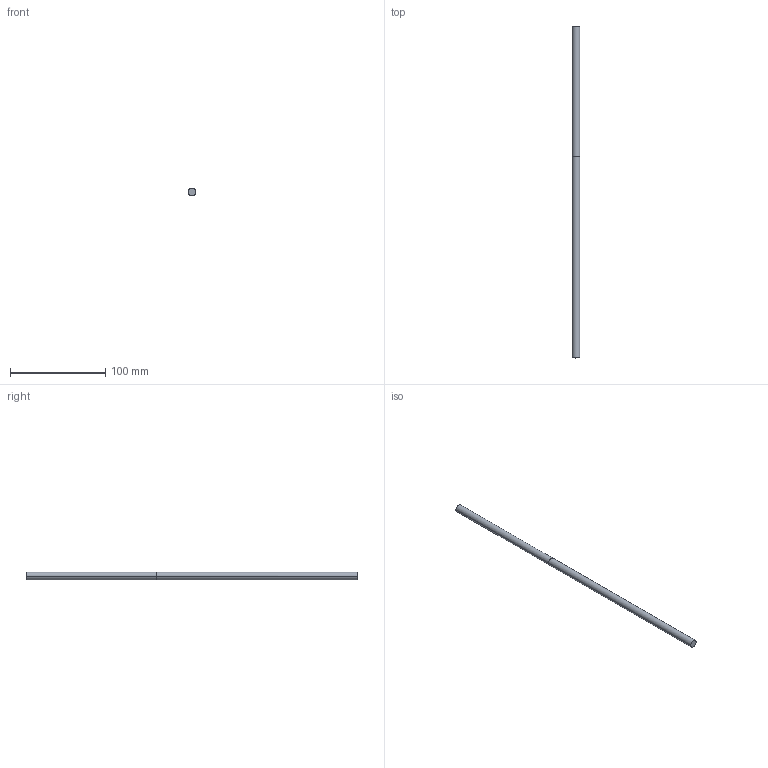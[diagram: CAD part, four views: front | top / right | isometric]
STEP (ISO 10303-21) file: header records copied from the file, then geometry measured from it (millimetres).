
FILE_DESCRIPTION(/* description */ (''),/* implementation_level */ '2;1');
FILE_NAME(/* name */ 'GUIALI~2',/* time_stamp */ '2019-04-01T21:27:19-03:00',/* author */ (''),/* organization */ (''),/* preprocessor_version */ 'ST-DEVELOPER v16.5',/* originating_system */ '',/* authorisation */ '');
FILE_SCHEMA (('AUTOMOTIVE_DESIGN'));
Length unit declared in the file: millimetre
Products named in the file (1): Document
Bounding box: 8 x 348 x 7.99 mm (x, y, z)
Volume: 17526 mm3; surface area: 8859.3 mm2
Topology: 1 solids, 1 shells, 6 faces, 10 edges, 6 vertices
Faces by surface type: bspline 4, plane 2
Entity records: 173 total; most frequent: CARTESIAN_POINT 88, ORIENTED_EDGE 20, EDGE_CURVE 10, ADVANCED_FACE 6, FACE_OUTER_BOUND 6, EDGE_LOOP 6, VERTEX_POINT 6, DIRECTION 6
